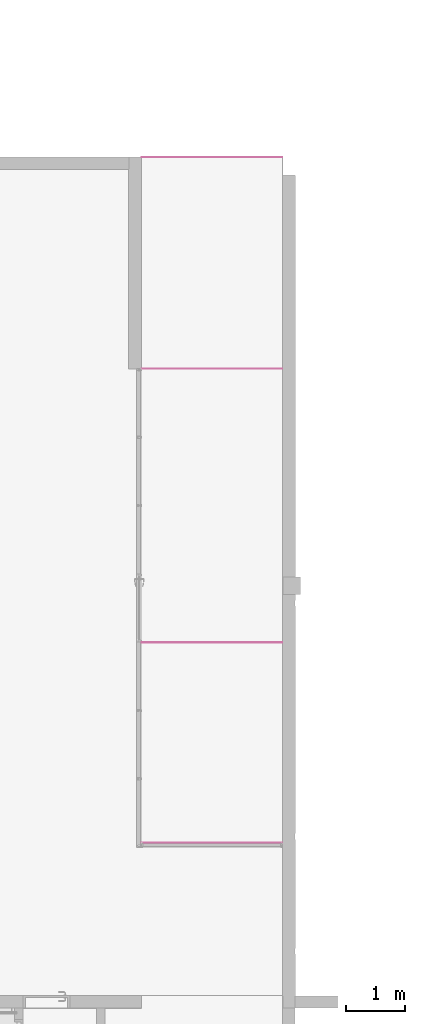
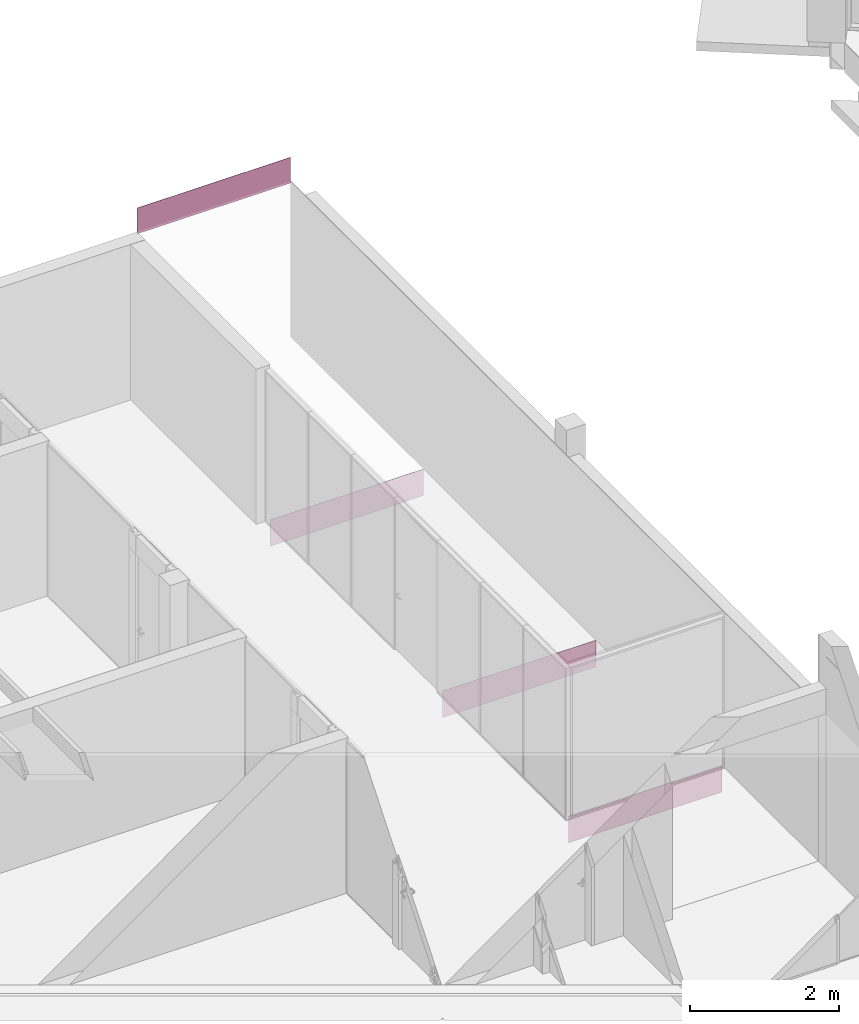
# One storey, part 79 of 79: 4 furnishings.
"""IFC2X3 building model written with IfcOpenShell, lengths in millimetres."""

from ifc_helpers import new_model, entity, si_unit, converted_unit, derived_unit, money_unit, direction, frame, origin_with_axes, place, context, subcontext, project, spatial, faceted_brep, material, type_object, element, save


model = new_model("IFC2X3")

# Units and contexts
model_context = context("Model", 3, precision=0.01, world=origin_with_axes(), true_north=direction((0.0, 1.0)))
body_context = subcontext(model_context, "Body", "Model", "MODEL_VIEW")
ifc_project = project(units=[si_unit("LENGTHUNIT", "METRE", prefix="MILLI"), si_unit("AREAUNIT", "SQUARE_METRE"), si_unit("VOLUMEUNIT", "CUBIC_METRE"), converted_unit("PLANEANGLEUNIT", "DEGREE", entity("IfcPlaneAngleMeasure", 0.0174532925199), si_unit("PLANEANGLEUNIT", "RADIAN"), dimensions=[0, 0, 0, 0, 0, 0, 0]), si_unit("SOLIDANGLEUNIT", "STERADIAN"), money_unit("EUR"), converted_unit("TIMEUNIT", "Year", entity("IfcTimeMeasure", 31556926.0), si_unit("TIMEUNIT", "SECOND"), dimensions=[0, 0, 1, 0, 0, 0, 0]), si_unit("MASSUNIT", "GRAM", prefix="KILO"), si_unit("THERMODYNAMICTEMPERATUREUNIT", "DEGREE_CELSIUS"), si_unit("LUMINOUSINTENSITYUNIT", "LUMEN"), si_unit("ENERGYUNIT", "JOULE", prefix="MEGA"), derived_unit("THERMALCONDUCTANCEUNIT", [(si_unit("POWERUNIT", "WATT"), 1), (si_unit("LENGTHUNIT", "METRE"), -1), (si_unit("THERMODYNAMICTEMPERATUREUNIT", "KELVIN"), -1)]), derived_unit("SPECIFICHEATCAPACITYUNIT", [(si_unit("ENERGYUNIT", "JOULE"), 1), (si_unit("MASSUNIT", "GRAM", prefix="KILO"), -1), (si_unit("THERMODYNAMICTEMPERATUREUNIT", "KELVIN"), -1)]), derived_unit("MASSDENSITYUNIT", [(si_unit("MASSUNIT", "GRAM", prefix="KILO"), 1), (si_unit("VOLUMEUNIT", "CUBIC_METRE"), -1)])], contexts=[model_context])

# Site, building, storey
site_placement = place(None, origin_with_axes())
site = spatial("IfcSite", under=ifc_project, at=site_placement, Name="L.Koidula tn 11b", CompositionType="ELEMENT")
building_placement = place(site_placement, origin_with_axes())
building = spatial("IfcBuilding", under=site, at=building_placement, Name="Rakvere Riigigümnaasium", CompositionType="ELEMENT")
storey_placement = place(building_placement, frame((0.0, 0.0, 3720.0), z_axis=(0.0, 0.0, 1.0), x_axis=(1.0, 0.0, 0.0)))
storey = spatial("IfcBuildingStorey", under=building, at=storey_placement, Name="2.korrus +3,72", CompositionType="ELEMENT", Elevation=3720.0)

# Furnishings
ifc_material = material(Name="Teras")
furniture_type = type_object("IfcFurnitureType", Name="Teras 3", AssemblyPlace="NOTDEFINED")
furnishing_1_placement = place(storey_placement, frame((44609.9999911, 31500.4555111, 2520.0), z_axis=(0.0, 0.0, 1.0), x_axis=(1.0, 0.0, 0.0)))
element("IfcFurnishingElement", 1, at=furnishing_1_placement, inside=storey, type_object=furniture_type, material=ifc_material, Name="Vahelae servakate", context=body_context, shape_type="Brep", body=[
    faceted_brep([(0.0, -3.0, 425.0), (2380.00000237, -3.0, 425.0), (2380.00000237, 0.0, 425.0), (0.0, 0.0, 425.0), (0.0, -3.0, 0.0), (2380.00000237, -3.0, 0.0), (2380.00000237, 0.0, 0.0), (0.0, 0.0, 0.0)], [[[0, 1, 2, 3]], [[4, 5, 1, 0]], [[2, 1, 5, 6]], [[3, 2, 6, 7]], [[4, 0, 3, 7]], [[7, 6, 5, 4]]]),
])
furnishing_2_placement = place(storey_placement, frame((44609.9999911, 23290.4712854, -437.0), z_axis=(0.0, 0.0, 1.0), x_axis=(1.0, 0.0, 0.0)))
element("IfcFurnishingElement", 2, at=furnishing_2_placement, inside=storey, type_object=furniture_type, material=ifc_material, Name="Vahelae servakate", context=body_context, shape_type="Brep", body=[
    faceted_brep([(0.0, 0.0, 0.0), (2380.00000237, 0.0, 0.0), (2380.00000237, -3.0, 0.0), (0.0, -3.0, 0.0), (0.0, 0.0, 437.0), (2380.00000237, 0.0, 437.0), (2380.00000237, -3.0, 437.0), (0.0, -3.0, 437.0)], [[[0, 1, 2, 3]], [[4, 5, 1, 0]], [[2, 1, 5, 6]], [[3, 2, 6, 7]], [[4, 0, 3, 7]], [[7, 6, 5, 4]]]),
])
for number, where, z_axis, x_axis in (
    (3, (44609.9999911, 19900.2190214, -437.0), (0.0, 0.0, 1.0), (1.0, 0.0, 0.0)),
    (4, (44609.9999911, 27920.4556829, -437.0), (0.0, 0.0, 1.0), (1.0, 0.0, 0.0)),
):
    element("IfcFurnishingElement", number, at=place(storey_placement, frame(where, z_axis=z_axis, x_axis=x_axis)), inside=storey, type_object=furniture_type, material=ifc_material, Name="Vahelae servakate", context=body_context, shape_type="Brep", body=[
        faceted_brep([(0.0, 0.0, 437.0), (2380.00000237, 0.0, 437.0), (2380.00000237, 3.0, 437.0), (0.0, 3.0, 437.0), (0.0, 0.0, 0.0), (2380.00000237, 0.0, 0.0), (2380.00000237, 3.0, 0.0), (0.0, 3.0, 0.0)], [[[0, 1, 2, 3]], [[4, 5, 1, 0]], [[2, 1, 5, 6]], [[3, 2, 6, 7]], [[4, 0, 3, 7]], [[7, 6, 5, 4]]]),
    ])

save(model, "model.ifc")
